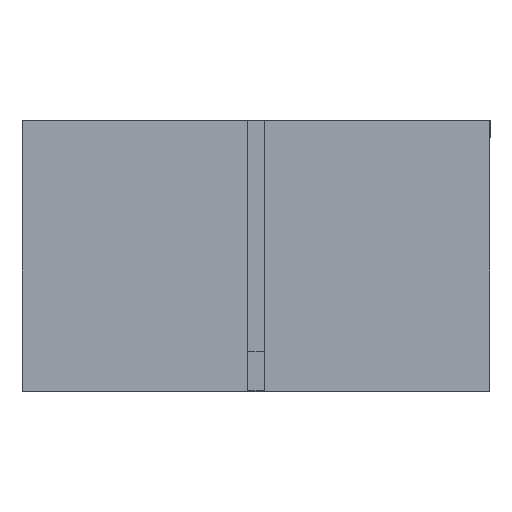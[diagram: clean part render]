
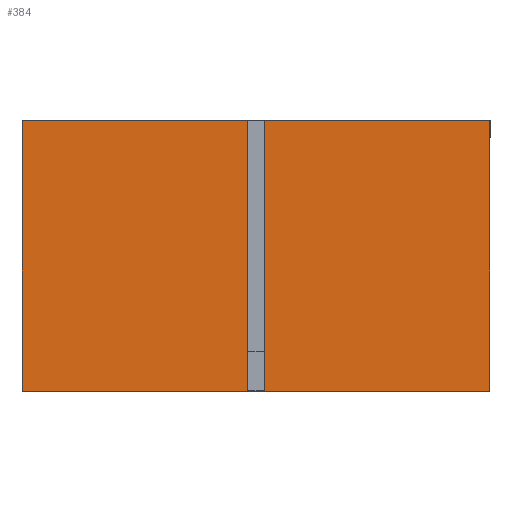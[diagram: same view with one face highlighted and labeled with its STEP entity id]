
A CAD part, top view. The second image highlights one B-rep face of the part: STEP entity #384.
In plain terms, the highlighted planar face has unit normal (0, 0, 1).
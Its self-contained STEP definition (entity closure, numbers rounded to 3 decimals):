
#70 = VERTEX_POINT('',#71);
#71 = CARTESIAN_POINT('',(0.,0.,15.875));
#78 = PLANE('',#79);
#79 = AXIS2_PLACEMENT_3D('',#80,#81,#82);
#80 = CARTESIAN_POINT('',(0.,0.,0.));
#81 = DIRECTION('',(0.,1.,0.));
#82 = DIRECTION('',(1.,0.,0.));
#90 = PLANE('',#91);
#91 = AXIS2_PLACEMENT_3D('',#92,#93,#94);
#92 = CARTESIAN_POINT('',(0.,609.6,0.));
#93 = DIRECTION('',(1.,0.,0.));
#94 = DIRECTION('',(0.,-1.,0.));
#102 = EDGE_CURVE('',#70,#103,#105,.T.);
#103 = VERTEX_POINT('',#104);
#104 = CARTESIAN_POINT('',(1054.1,0.,15.875));
#105 = SURFACE_CURVE('',#106,(#110,#117),.PCURVE_S1.);
#106 = LINE('',#107,#108);
#107 = CARTESIAN_POINT('',(0.,0.,15.875));
#108 = VECTOR('',#109,1.);
#109 = DIRECTION('',(1.,0.,0.));
#110 = PCURVE('',#78,#111);
#111 = DEFINITIONAL_REPRESENTATION('',(#112),#116);
#112 = LINE('',#113,#114);
#113 = CARTESIAN_POINT('',(0.,-15.875));
#114 = VECTOR('',#115,1.);
#115 = DIRECTION('',(1.,0.));
#116 = ( GEOMETRIC_REPRESENTATION_CONTEXT(2) 
PARAMETRIC_REPRESENTATION_CONTEXT() REPRESENTATION_CONTEXT('2D SPACE',''
  ) );
#117 = PCURVE('',#118,#123);
#118 = PLANE('',#119);
#119 = AXIS2_PLACEMENT_3D('',#120,#121,#122);
#120 = CARTESIAN_POINT('',(527.05,304.8,15.875));
#121 = DIRECTION('',(0.,0.,1.));
#122 = DIRECTION('',(1.,0.,0.));
#123 = DEFINITIONAL_REPRESENTATION('',(#124),#128);
#124 = LINE('',#125,#126);
#125 = CARTESIAN_POINT('',(-527.05,-304.8));
#126 = VECTOR('',#127,1.);
#127 = DIRECTION('',(1.,0.));
#128 = ( GEOMETRIC_REPRESENTATION_CONTEXT(2) 
PARAMETRIC_REPRESENTATION_CONTEXT() REPRESENTATION_CONTEXT('2D SPACE',''
  ) );
#146 = PLANE('',#147);
#147 = AXIS2_PLACEMENT_3D('',#148,#149,#150);
#148 = CARTESIAN_POINT('',(1054.1,0.,0.));
#149 = DIRECTION('',(-1.,0.,0.));
#150 = DIRECTION('',(0.,1.,0.));
#188 = EDGE_CURVE('',#103,#189,#191,.T.);
#189 = VERTEX_POINT('',#190);
#190 = CARTESIAN_POINT('',(1054.1,609.6,15.875));
#191 = SURFACE_CURVE('',#192,(#196,#203),.PCURVE_S1.);
#192 = LINE('',#193,#194);
#193 = CARTESIAN_POINT('',(1054.1,0.,15.875));
#194 = VECTOR('',#195,1.);
#195 = DIRECTION('',(0.,1.,0.));
#196 = PCURVE('',#146,#197);
#197 = DEFINITIONAL_REPRESENTATION('',(#198),#202);
#198 = LINE('',#199,#200);
#199 = CARTESIAN_POINT('',(0.,-15.875));
#200 = VECTOR('',#201,1.);
#201 = DIRECTION('',(1.,0.));
#202 = ( GEOMETRIC_REPRESENTATION_CONTEXT(2) 
PARAMETRIC_REPRESENTATION_CONTEXT() REPRESENTATION_CONTEXT('2D SPACE',''
  ) );
#203 = PCURVE('',#118,#204);
#204 = DEFINITIONAL_REPRESENTATION('',(#205),#209);
#205 = LINE('',#206,#207);
#206 = CARTESIAN_POINT('',(527.05,-304.8));
#207 = VECTOR('',#208,1.);
#208 = DIRECTION('',(0.,1.));
#209 = ( GEOMETRIC_REPRESENTATION_CONTEXT(2) 
PARAMETRIC_REPRESENTATION_CONTEXT() REPRESENTATION_CONTEXT('2D SPACE',''
  ) );
#227 = PLANE('',#228);
#228 = AXIS2_PLACEMENT_3D('',#229,#230,#231);
#229 = CARTESIAN_POINT('',(1054.1,609.6,0.));
#230 = DIRECTION('',(0.,-1.,0.));
#231 = DIRECTION('',(-1.,0.,0.));
#264 = EDGE_CURVE('',#189,#265,#267,.T.);
#265 = VERTEX_POINT('',#266);
#266 = CARTESIAN_POINT('',(0.,609.6,15.875));
#267 = SURFACE_CURVE('',#268,(#272,#279),.PCURVE_S1.);
#268 = LINE('',#269,#270);
#269 = CARTESIAN_POINT('',(1054.1,609.6,15.875));
#270 = VECTOR('',#271,1.);
#271 = DIRECTION('',(-1.,0.,0.));
#272 = PCURVE('',#227,#273);
#273 = DEFINITIONAL_REPRESENTATION('',(#274),#278);
#274 = LINE('',#275,#276);
#275 = CARTESIAN_POINT('',(0.,-15.875));
#276 = VECTOR('',#277,1.);
#277 = DIRECTION('',(1.,0.));
#278 = ( GEOMETRIC_REPRESENTATION_CONTEXT(2) 
PARAMETRIC_REPRESENTATION_CONTEXT() REPRESENTATION_CONTEXT('2D SPACE',''
  ) );
#279 = PCURVE('',#118,#280);
#280 = DEFINITIONAL_REPRESENTATION('',(#281),#285);
#281 = LINE('',#282,#283);
#282 = CARTESIAN_POINT('',(527.05,304.8));
#283 = VECTOR('',#284,1.);
#284 = DIRECTION('',(-1.,0.));
#285 = ( GEOMETRIC_REPRESENTATION_CONTEXT(2) 
PARAMETRIC_REPRESENTATION_CONTEXT() REPRESENTATION_CONTEXT('2D SPACE',''
  ) );
#335 = EDGE_CURVE('',#265,#70,#336,.T.);
#336 = SURFACE_CURVE('',#337,(#341,#348),.PCURVE_S1.);
#337 = LINE('',#338,#339);
#338 = CARTESIAN_POINT('',(0.,609.6,15.875));
#339 = VECTOR('',#340,1.);
#340 = DIRECTION('',(0.,-1.,0.));
#341 = PCURVE('',#90,#342);
#342 = DEFINITIONAL_REPRESENTATION('',(#343),#347);
#343 = LINE('',#344,#345);
#344 = CARTESIAN_POINT('',(0.,-15.875));
#345 = VECTOR('',#346,1.);
#346 = DIRECTION('',(1.,0.));
#347 = ( GEOMETRIC_REPRESENTATION_CONTEXT(2) 
PARAMETRIC_REPRESENTATION_CONTEXT() REPRESENTATION_CONTEXT('2D SPACE',''
  ) );
#348 = PCURVE('',#118,#349);
#349 = DEFINITIONAL_REPRESENTATION('',(#350),#354);
#350 = LINE('',#351,#352);
#351 = CARTESIAN_POINT('',(-527.05,304.8));
#352 = VECTOR('',#353,1.);
#353 = DIRECTION('',(0.,-1.));
#354 = ( GEOMETRIC_REPRESENTATION_CONTEXT(2) 
PARAMETRIC_REPRESENTATION_CONTEXT() REPRESENTATION_CONTEXT('2D SPACE',''
  ) );
#384 = ADVANCED_FACE('',(#385),#118,.T.);
#385 = FACE_BOUND('',#386,.T.);
#386 = EDGE_LOOP('',(#387,#388,#389,#390));
#387 = ORIENTED_EDGE('',*,*,#102,.T.);
#388 = ORIENTED_EDGE('',*,*,#188,.T.);
#389 = ORIENTED_EDGE('',*,*,#264,.T.);
#390 = ORIENTED_EDGE('',*,*,#335,.T.);
